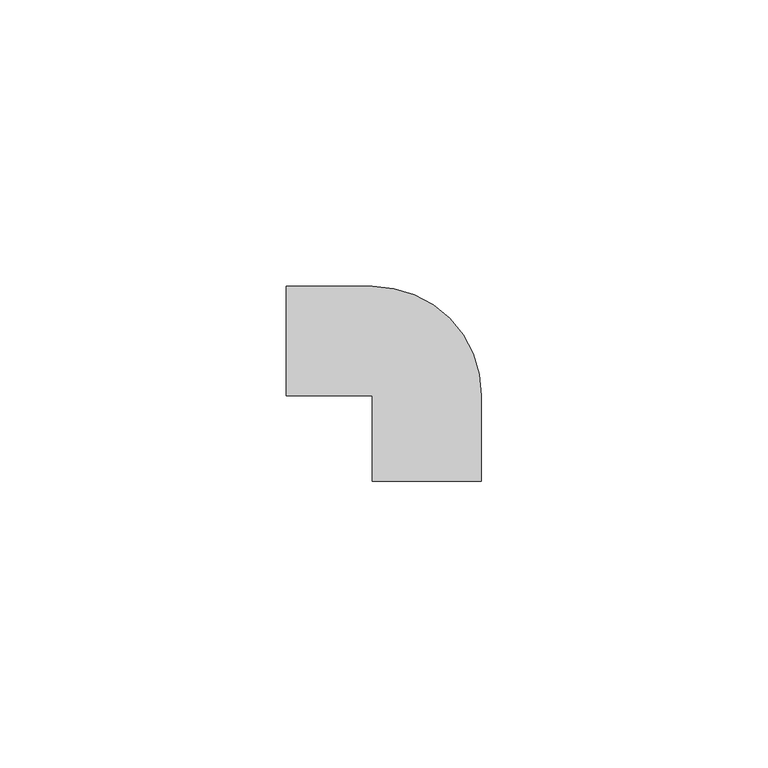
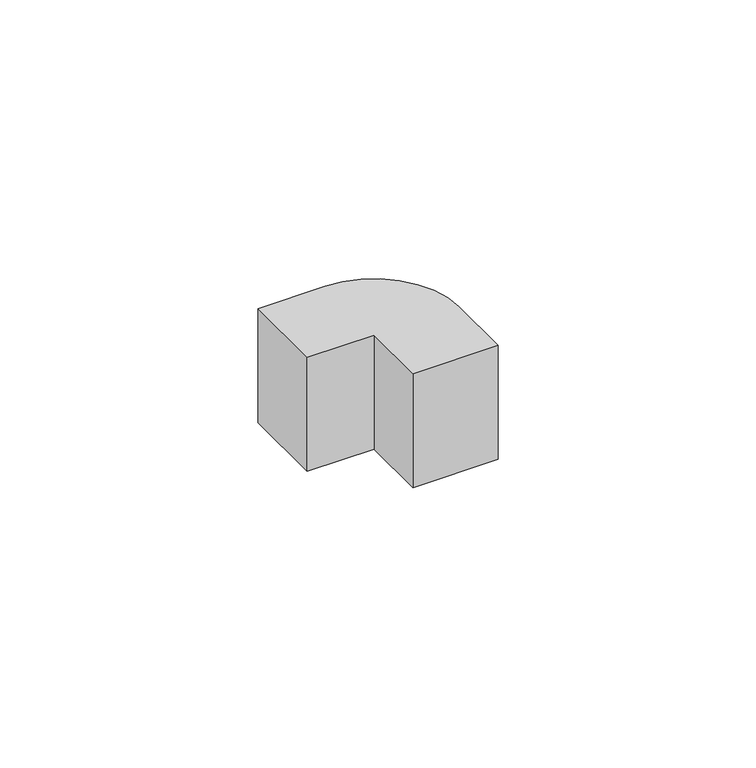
"""IFC4 building model written with IfcOpenShell, lengths in millimetres: proxy geometry, Внешний_угол_КМН : Внешний угол КМН 25х16."""

import ifcopenshell
import ifcopenshell.guid

model = None  # the IFC model being written
_history = None  # IfcOwnerHistory: only IFC2X3 demands one
_inside = {}  # id of a spatial element -> (the spatial element, [elements in it])
_under = {}  # id of a project, library or spatial element -> (it, [spatial elements below it])
_declared = {}  # id of a project -> (the project, [libraries it declares])
_typed = {}  # id of a type object -> (the type object, [elements of that type])
_made_of = {}  # id of a material, layer set ... -> (it, [elements and type objects made of it])


def new_model(schema):
    """Start an empty IFC model of exactly this schema.

    Asked for "IFC4X3", IfcOpenShell would pick the latest addendum, in which some entities
    have other attributes; the version numbers below select the first issue.
    IFC2X3 requires an IfcOwnerHistory on every rooted entity: one is made here for all.
    """
    global model, _history
    if schema == "IFC4X3":
        model = ifcopenshell.file(schema_version=(4, 3, 0, 0))
    else:
        model = ifcopenshell.file(schema=schema)
    _inside.clear()
    _under.clear()
    _declared.clear()
    _typed.clear()
    _made_of.clear()
    _history = None
    if model.schema == "IFC2X3":
        org = make("IfcOrganization", Name="unknown")
        user = make(
            "IfcPersonAndOrganization",
            ThePerson=make("IfcPerson", FamilyName="unknown"),
            TheOrganization=org,
        )
        app = make(
            "IfcApplication",
            ApplicationDeveloper=org,
            Version="unknown",
            ApplicationFullName="unknown",
            ApplicationIdentifier="unknown",
        )
        _history = make(
            "IfcOwnerHistory",
            OwningUser=user,
            OwningApplication=app,
            ChangeAction="ADDED",
            CreationDate=0,
        )
    return model


def make(cls, **values):
    """One entity of the class cls with the attributes given. An attribute that is None is left unset."""
    return model.create_entity(
        cls, **{name: value for name, value in values.items() if value is not None}
    )


def rooted(cls, **values):
    """An entity with a GlobalId (a new one), such as an element, a storey or a relation."""
    return make(cls, GlobalId=ifcopenshell.guid.new(), OwnerHistory=_history, **values)


def si_unit(unit_type, name, prefix=None):
    """IfcSIUnit, for example si_unit("LENGTHUNIT", "METRE", prefix="MILLI")."""
    return make("IfcSIUnit", UnitType=unit_type, Prefix=prefix, Name=name)


def assignment(units):
    """IfcUnitAssignment: the units of a project."""
    return None if units is None else make("IfcUnitAssignment", Units=units)


def point(xyz):
    """IfcCartesianPoint."""
    return None if xyz is None else make("IfcCartesianPoint", Coordinates=xyz)


def direction(xyz):
    """IfcDirection."""
    return None if xyz is None else make("IfcDirection", DirectionRatios=xyz)


def frame(location, z_axis=None, x_axis=None):
    """IfcAxis2Placement3D, a coordinate frame: its origin and axes. An axis left out is left unset."""
    return make(
        "IfcAxis2Placement3D",
        Location=point(location),
        Axis=direction(z_axis),
        RefDirection=direction(x_axis),
    )


def frame_2d(location, x_axis=None):
    """IfcAxis2Placement2D, a coordinate frame in the plane: its origin and x axis."""
    return make(
        "IfcAxis2Placement2D", Location=point(location), RefDirection=direction(x_axis)
    )


def origin():
    """The frame at (0, 0, 0) with its axes left unset."""
    return frame((0.0, 0.0, 0.0))


def origin_with_axes():
    """The frame at (0, 0, 0) with the z axis (0, 0, 1) and the x axis (1, 0, 0) written out."""
    return frame((0.0, 0.0, 0.0), z_axis=(0.0, 0.0, 1.0), x_axis=(1.0, 0.0, 0.0))


def origin_2d():
    """The frame at (0, 0) in the plane with its x axis left unset."""
    return frame_2d((0.0, 0.0))


def place(relative_to, where):
    """IfcLocalPlacement: puts the frame where relative to a parent placement (None: the world)."""
    return make(
        "IfcLocalPlacement", PlacementRelTo=relative_to, RelativePlacement=where
    )


def context(
    kind, dimensions, precision=None, world=None, true_north=None, identifier=None
):
    """IfcGeometricRepresentationContext, for example the 3D "Model" context."""
    return make(
        "IfcGeometricRepresentationContext",
        ContextIdentifier=identifier,
        ContextType=kind,
        CoordinateSpaceDimension=dimensions,
        Precision=precision,
        WorldCoordinateSystem=world,
        TrueNorth=true_north,
    )


def project(units=None, contexts=None):
    """IfcProject with its units and contexts."""
    return rooted(
        "IfcProject",
        Name="project",
        RepresentationContexts=contexts,
        UnitsInContext=assignment(units),
    )


def spatial(cls, under=None, at=None, **own):
    """A site, building, storey or space (cls), placed at a placement, below another one or the project."""
    s = rooted(cls, ObjectPlacement=at, **own)
    if under is not None:
        _under.setdefault(under.id(), (under, []))[1].append(s)
    return s


def polyline(points):
    """IfcPolyline through the points."""
    return make("IfcPolyline", Points=[point(p) for p in points])


def circle_curve(where, radius):
    """IfcCircle in the frame where."""
    return make("IfcCircle", Position=where, Radius=radius)


def trimmed(basis, trim1, trim2, sense, master):
    """IfcTrimmedCurve: the piece of a basis curve between two trims."""
    return make(
        "IfcTrimmedCurve",
        BasisCurve=basis,
        Trim1=trim1,
        Trim2=trim2,
        SenseAgreement=sense,
        MasterRepresentation=master,
    )


def segment(curve, same_sense, transition):
    """IfcCompositeCurveSegment."""
    return make(
        "IfcCompositeCurveSegment",
        Transition=transition,
        SameSense=same_sense,
        ParentCurve=curve,
    )


def composite_curve(segments, self_intersect=None):
    """IfcCompositeCurve: segments joined end to end."""
    return make("IfcCompositeCurve", Segments=segments, SelfIntersect=self_intersect)


def outline(outer, holes=None, kind="AREA"):
    """IfcArbitraryClosedProfileDef: a profile drawn as a closed curve; with holes, ...WithVoids."""
    if holes is None:
        return make("IfcArbitraryClosedProfileDef", ProfileType=kind, OuterCurve=outer)
    return make(
        "IfcArbitraryProfileDefWithVoids",
        ProfileType=kind,
        OuterCurve=outer,
        InnerCurves=holes,
    )


def extrude(swept, where, along, depth):
    """IfcExtrudedAreaSolid: the profile swept, set in the frame where, extruded along a direction by depth."""
    return make(
        "IfcExtrudedAreaSolid",
        SweptArea=swept,
        Position=where,
        ExtrudedDirection=direction(along),
        Depth=depth,
    )


def shape(context_of_items, identifier, shape_type, items):
    """IfcShapeRepresentation: the items that make up one representation, for example the "Body"."""
    return make(
        "IfcShapeRepresentation",
        ContextOfItems=context_of_items,
        RepresentationIdentifier=identifier,
        RepresentationType=shape_type,
        Items=items,
    )


def source(mapping_origin, context_of_items, identifier, shape_type, items):
    """IfcRepresentationMap: a shape defined once, which mapped items show again and again."""
    return make(
        "IfcRepresentationMap",
        MappingOrigin=mapping_origin,
        MappedRepresentation=shape(context_of_items, identifier, shape_type, items),
    )


def transform(
    local_origin,
    x_axis=None,
    y_axis=None,
    z_axis=None,
    scale=None,
    scale2=None,
    scale3=None,
    uniform=True,
):
    """IfcCartesianTransformationOperator3D, or its non-uniform kind. x_axis, y_axis, z_axis: its Axis1, 2, 3."""
    if uniform:
        return make(
            "IfcCartesianTransformationOperator3D",
            Axis1=direction(x_axis),
            Axis2=direction(y_axis),
            LocalOrigin=point(local_origin),
            Scale=scale,
            Axis3=direction(z_axis),
        )
    return make(
        "IfcCartesianTransformationOperator3DnonUniform",
        Axis1=direction(x_axis),
        Axis2=direction(y_axis),
        LocalOrigin=point(local_origin),
        Scale=scale,
        Axis3=direction(z_axis),
        Scale2=scale2,
        Scale3=scale3,
    )


def mapped(mapping_source, mapping_target):
    """IfcMappedItem: shows the shape of a source again, moved by a transform."""
    return make(
        "IfcMappedItem", MappingSource=mapping_source, MappingTarget=mapping_target
    )


def made_of(thing, what):
    """Note that an element or type object is made of a material, layer set ...; save() writes the relation."""
    if what is not None:
        _made_of.setdefault(what.id(), (what, []))[1].append(thing)
    return thing


def element(
    cls,
    number,
    at=None,
    inside=None,
    cuts=None,
    type_object=None,
    material=None,
    context=None,
    identifier="Body",
    shape_type=None,
    held_by="IfcProductDefinitionShape",
    body=None,
    shapes=None,
    **own,
):
    """One element of the class cls, such as IfcWall. Its Tag is "e" and its number.

    at: its placement. inside: the storey or other place that contains it. cuts: it is an
    opening in that element (IfcRelVoidsElement). A single representation is given by context,
    identifier, shape_type and body (its items); several are given by shapes. held_by: the class
    of the entity that holds the representations. save() writes the other relations.
    """
    e = rooted(cls, Tag="e%d" % number, ObjectPlacement=at, **own)
    if body is not None:
        shapes = [shape(context, identifier, shape_type, body)]
    if shapes is not None:
        e.Representation = make(held_by, Representations=shapes)
    if inside is not None:
        _inside.setdefault(inside.id(), (inside, []))[1].append(e)
    if cuts is not None:
        rooted(
            "IfcRelVoidsElement", RelatingBuildingElement=cuts, RelatedOpeningElement=e
        )
    if type_object is not None:
        _typed.setdefault(type_object.id(), (type_object, []))[1].append(e)
    return made_of(e, material)


def aggregate(whole, parts):
    """IfcRelAggregates: a whole, such as a stair, and the parts it consists of."""
    return rooted("IfcRelAggregates", RelatingObject=whole, RelatedObjects=parts)


def save(model, path):
    """Write the relations noted so far, then the file.

    IfcRelAggregates (storeys below a building ...), IfcRelContainedInSpatialStructure (elements
    in a storey), IfcRelDefinesByType, IfcRelAssociatesMaterial and IfcRelDeclares: one each for
    every whole, place, type object, material and project.
    """
    for whole, parts in _under.values():
        aggregate(whole, parts)
    for where, things in _inside.values():
        rooted(
            "IfcRelContainedInSpatialStructure",
            RelatedElements=things,
            RelatingStructure=where,
        )
    for kind, things in _typed.values():
        rooted("IfcRelDefinesByType", RelatedObjects=things, RelatingType=kind)
    for what, things in _made_of.values():
        rooted("IfcRelAssociatesMaterial", RelatedObjects=things, RelatingMaterial=what)
    for by, libraries in _declared.values():
        rooted("IfcRelDeclares", RelatingContext=by, RelatedDefinitions=libraries)
    model.write(path)


def generic_models_c3663f6d(model_context):
    return source(origin(), model_context, "Body", "SweptSolid", [
        extrude(outline(composite_curve([segment(polyline([(-15.0, 0.0), (-15.0, 19.037256), (0.0, 19.037256)]), True, "CONTINUOUS"), segment(trimmed(circle_curve(origin_2d(), 19.037256), [point((0.0, 19.037256))], [point((19.037256, 0.0))], False, "CARTESIAN"), True, "CONTINUOUS"), segment(polyline([(19.037256, 0.0), (19.037256, -15.0), (0.0, -15.0), (0.0, 0.0), (-15.0, 0.0)]), True, "CONTINUOUS")], self_intersect=False)), origin_with_axes(), (0.0, 0.0, 1.0), 26.9770043),
    ])


if __name__ == "__main__":
    model = new_model("IFC4")
    model_context = context("Model", 3, world=origin())
    ifc_project = project(units=[si_unit("LENGTHUNIT", "METRE", prefix="MILLI")], contexts=[model_context])
    site = spatial("IfcSite", under=ifc_project)
    building = spatial("IfcBuilding", under=site)
    placement = place(None, origin())
    generic_models_shape = generic_models_c3663f6d(model_context)
    element("IfcBuildingElementProxy", 1, Name="Внешний_угол_КМН : Внешний угол КМН 25х16", ObjectType="Внешний_угол_КМН : Внешний угол КМН 25х16", at=placement, inside=building, context=model_context, shape_type="MappedRepresentation", body=[
        mapped(generic_models_shape, transform((0.0, 0.0, 0.0), x_axis=(1.0, 0.0, 0.0), y_axis=(0.0, 1.0, 0.0), z_axis=(0.0, 0.0, 1.0))),
    ])
    save(model, "model.ifc")
